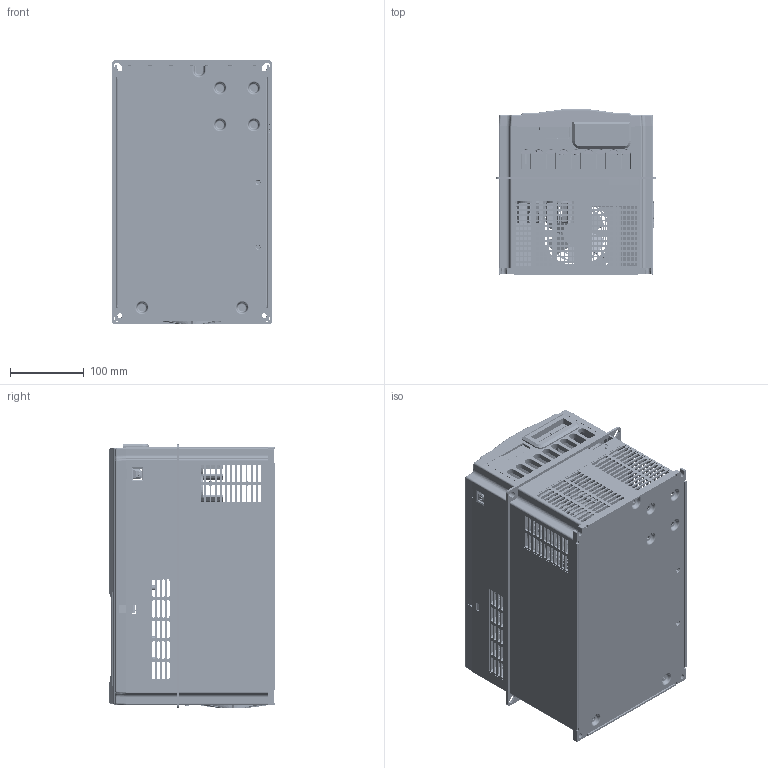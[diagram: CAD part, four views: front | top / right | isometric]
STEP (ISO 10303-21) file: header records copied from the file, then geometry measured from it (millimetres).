
FILE_DESCRIPTION((''),'2;1');
FILE_NAME('T5_ASM','2024-03-28T13:17:02',('dyliuk'),(''),'CREO PARAMETRIC BY PTC INC, 2020044','CREO PARAMETRIC BY PTC INC, 2020044','');
FILE_SCHEMA(('CONFIG_CONTROL_DESIGN','SHAPE_APPEARANCE_LAYERS_GROUPS'));
Products named in the file (36): NVF6-2200_40_164_1; M4X6_4_4_1; M5X6-UNT_5_1; M4X3_4_1; 5022V1609_ASM_32_ASM_1_ASM; 8423V1612_26_1; 8055V1606_28_1; FAN929238_8_1; 8300V1604_39_1; NVF6-2200_27_90_1; M3X5-QIAO_6_1; 5355V1608_ASM_11_ASM_1_ASM; 8325V1618_24_1; 8392V1608_4_1; 8315V1625_47_1; 8315V1626_52_1; 2971V1664_ASM_23_ASM_1_ASM; 8315V1617; PCB-1_1_1; PCB-2-A_1_1; LCD-1_1_1; ANL01_1_23_1__4_1_1; MANIFOLD_SOLID_BREP_21504_1; MANIFOLD_SOLID_BREP_21654_1; DZ-01_1_3_7_1__1_1_ASM_1_ASM; 5599V1602_ASM; 8865V1605; BOX-BOTTOM-PLATE_1_1; M4X4_1_1; 5022V1607_ASM; LED-11_1; PA-3X6_1; 5353V1602_ASM; 8865V1601-250T-315T_1_1; 8ZTD-865-1230-00_1_1; T5_ASM
Assembly tree (51 placements, depth 5):
  T5_ASM
    2971V1664_ASM_23_ASM_1_ASM
      5022V1609_ASM_32_ASM_1_ASM
        NVF6-2200_40_164_1
        M4X6_4_4_1  x4
        M5X6-UNT_5_1  x2
        M4X3_4_1  x2
      8423V1612_26_1
      8055V1606_28_1
      FAN929238_8_1
      8300V1604_39_1
      5355V1608_ASM_11_ASM_1_ASM
        NVF6-2200_27_90_1
        M3X5-QIAO_6_1
      8325V1618_24_1
      8392V1608_4_1
      8315V1625_47_1
      8315V1626_52_1
    5353V1602_ASM
      8315V1617
      5599V1602_ASM
        PCB-1_1_1
        PCB-2-A_1_1
        LCD-1_1_1
        ANL01_1_23_1__4_1_1  x9
        DZ-01_1_3_7_1__1_1_ASM_1_ASM
          MANIFOLD_SOLID_BREP_21504_1
          MANIFOLD_SOLID_BREP_21654_1
      8865V1605
      5022V1607_ASM
        BOX-BOTTOM-PLATE_1_1
        M4X4_1_1  x2
      LED-11_1
      PA-3X6_1  x3
    8865V1601-250T-315T_1_1
    8ZTD-865-1230-00_1_1
Bounding box: 218.5 x 224.83 x 359.86 mm (x, y, z)
Volume: 2757031.3 mm3; surface area: 2566683.9 mm2
Topology: 41 solids, 92 shells, 11897 faces, 34460 edges, 22994 vertices
Faces by surface type: plane 8454, cylinder 2457, cone 511, torus 185, bspline 160, extrusion 114, sphere 12, revolution 4
Full cylindrical faces by diameter (mm): 7 x4
Entity records: 452979 total; most frequent: CARTESIAN_POINT 87732, ORIENTED_EDGE 61864, DIRECTION 55570, EDGE_CURVE 31174, VECTOR 23476, LINE 23362, VERTEX_POINT 20823, AXIS2_PLACEMENT_3D 16045
